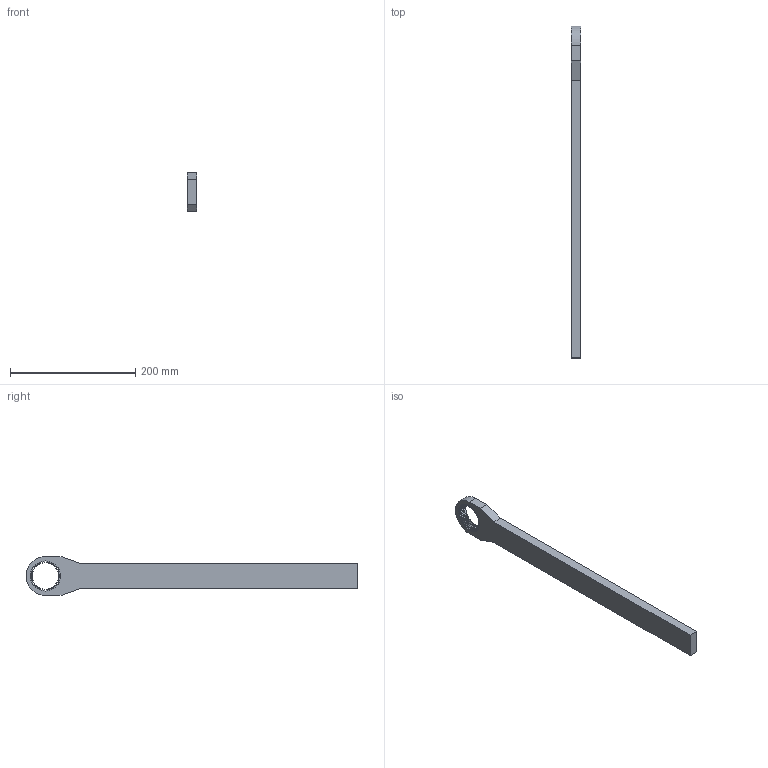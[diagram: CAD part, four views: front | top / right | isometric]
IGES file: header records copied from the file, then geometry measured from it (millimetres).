
Start section:  PTC IGES file: 6158120540.igs
Global section: file name: 6158120540.igs; native system: Creo Parametric by Parametric Technology Corporation; preprocessor: 2014200; author: gredl; organization: Unknown; date: 20150218.152721; units: millimetre
Bounding box: 15 x 531 x 62 mm (x, y, z)
Surface area: 63402.7 mm2 (no closed solid volume)
Topology: 0 solids, 0 shells, 274 faces, 1632 edges, 1632 vertices
Faces by surface type: revolution 177, bspline 97
